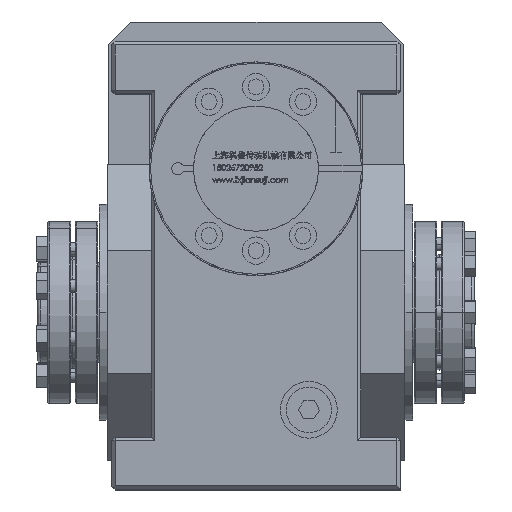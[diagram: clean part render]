
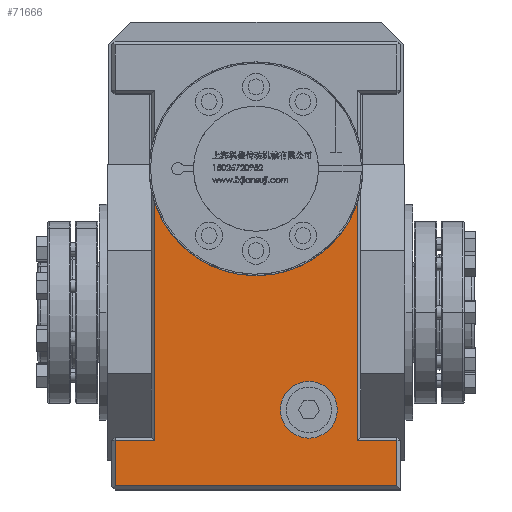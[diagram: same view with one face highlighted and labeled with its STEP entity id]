
A CAD part, top view. The second image highlights one B-rep face of the part: STEP entity #71666.
In plain terms, the highlighted planar face has unit normal (0, 0, 1).
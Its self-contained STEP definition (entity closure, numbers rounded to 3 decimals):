
#1091 = VERTEX_POINT ( 'NONE', #26248 ) ;
#1142 = CIRCLE ( 'NONE', #66708, 47. ) ;
#2273 = CARTESIAN_POINT ( 'NONE',  ( 63.5, -56.5, 83. ) ) ;
#4667 = DIRECTION ( 'NONE',  ( 0., -1., 0. ) ) ;
#6211 = VERTEX_POINT ( 'NONE', #77952 ) ;
#8925 = ORIENTED_EDGE ( 'NONE', *, *, #73434, .T. ) ;
#9269 = EDGE_CURVE ( 'NONE', #15785, #22098, #50517, .T. ) ;
#10593 = ORIENTED_EDGE ( 'NONE', *, *, #22511, .T. ) ;
#10961 = VECTOR ( 'NONE', #22382, 1000. ) ;
#11779 = ORIENTED_EDGE ( 'NONE', *, *, #73125, .F. ) ;
#12410 = DIRECTION ( 'NONE',  ( 0., 1., 0. ) ) ;
#12544 = CIRCLE ( 'NONE', #32111, 12.5 ) ;
#12589 = ORIENTED_EDGE ( 'NONE', *, *, #9269, .T. ) ;
#12796 = EDGE_CURVE ( 'NONE', #58542, #64301, #21939, .T. ) ;
#13722 = PLANE ( 'NONE',  #68805 ) ;
#15235 = VERTEX_POINT ( 'NONE', #37218 ) ;
#15785 = VERTEX_POINT ( 'NONE', #68820 ) ;
#15965 = AXIS2_PLACEMENT_3D ( 'NONE', #25913, #79174, #72630 ) ;
#16360 = VERTEX_POINT ( 'NONE', #44254 ) ;
#18860 = CARTESIAN_POINT ( 'NONE',  ( 63.5, -76.5, 83. ) ) ;
#18994 = DIRECTION ( 'NONE',  ( 0., 0., 1. ) ) ;
#21101 = EDGE_CURVE ( 'NONE', #64301, #34229, #37816, .T. ) ;
#21567 = FACE_BOUND ( 'NONE', #24738, .T. ) ;
#21939 = LINE ( 'NONE', #2273, #10961 ) ;
#22006 = EDGE_CURVE ( 'NONE', #6211, #58542, #22142, .T. ) ;
#22098 = VERTEX_POINT ( 'NONE', #79692 ) ;
#22142 = LINE ( 'NONE', #48772, #58362 ) ;
#22382 = DIRECTION ( 'NONE',  ( -1., 0., 0. ) ) ;
#22511 = EDGE_CURVE ( 'NONE', #74742, #15235, #68632, .T. ) ;
#24641 = CARTESIAN_POINT ( 'NONE',  ( 44.5, 47.876, 83. ) ) ;
#24738 = EDGE_LOOP ( 'NONE', ( #70956, #11779 ) ) ;
#25913 = CARTESIAN_POINT ( 'NONE',  ( 23.262, -43., 83. ) ) ;
#25980 = EDGE_CURVE ( 'NONE', #1091, #16360, #12544, .T. ) ;
#26248 = CARTESIAN_POINT ( 'NONE',  ( 35.762, -43., 83. ) ) ;
#29140 = ORIENTED_EDGE ( 'NONE', *, *, #22006, .T. ) ;
#31069 = LINE ( 'NONE', #52867, #75864 ) ;
#32111 = AXIS2_PLACEMENT_3D ( 'NONE', #78992, #59757, #53207 ) ;
#32152 = CARTESIAN_POINT ( 'NONE',  ( -62., 119., 83. ) ) ;
#32771 = DIRECTION ( 'NONE',  ( -1., 0., 0. ) ) ;
#34229 = VERTEX_POINT ( 'NONE', #24641 ) ;
#37218 = CARTESIAN_POINT ( 'NONE',  ( -44.5, -56.5, 83. ) ) ;
#37816 = LINE ( 'NONE', #57924, #45679 ) ;
#38908 = LINE ( 'NONE', #18860, #64758 ) ;
#39484 = DIRECTION ( 'NONE',  ( 0., 1., 0. ) ) ;
#40115 = CARTESIAN_POINT ( 'NONE',  ( -44.5, 47.876, 83. ) ) ;
#41850 = ORIENTED_EDGE ( 'NONE', *, *, #12796, .T. ) ;
#42890 = DIRECTION ( 'NONE',  ( 0., -1., 0. ) ) ;
#43083 = VECTOR ( 'NONE', #42890, 1000. ) ;
#44254 = CARTESIAN_POINT ( 'NONE',  ( 10.762, -43., 83. ) ) ;
#44890 = EDGE_CURVE ( 'NONE', #74742, #34229, #1142, .T. ) ;
#45679 = VECTOR ( 'NONE', #50936, 1000. ) ;
#45887 = EDGE_LOOP ( 'NONE', ( #8925, #29140, #41850, #79256, #64427, #10593, #65224, #12589 ) ) ;
#46913 = CARTESIAN_POINT ( 'NONE',  ( 63.5, 119., 83. ) ) ;
#48202 = DIRECTION ( 'NONE',  ( 0., 0., -1. ) ) ;
#48772 = CARTESIAN_POINT ( 'NONE',  ( 62., -55., 83. ) ) ;
#50517 = LINE ( 'NONE', #32152, #69882 ) ;
#50936 = DIRECTION ( 'NONE',  ( 0., 1., 0. ) ) ;
#52453 = DIRECTION ( 'NONE',  ( 1., 0., 0. ) ) ;
#52867 = CARTESIAN_POINT ( 'NONE',  ( -63.5, -56.5, 83. ) ) ;
#53207 = DIRECTION ( 'NONE',  ( 1., 0., 0. ) ) ;
#53597 = CIRCLE ( 'NONE', #15965, 12.5 ) ;
#54740 = FACE_OUTER_BOUND ( 'NONE', #45887, .T. ) ;
#55104 = CARTESIAN_POINT ( 'NONE',  ( -44.5, -55., 83. ) ) ;
#56226 = CARTESIAN_POINT ( 'NONE',  ( 44.5, -56.5, 83. ) ) ;
#57924 = CARTESIAN_POINT ( 'NONE',  ( 44.5, 53.356, 83. ) ) ;
#58362 = VECTOR ( 'NONE', #75402, 1000. ) ;
#58542 = VERTEX_POINT ( 'NONE', #65537 ) ;
#58596 = EDGE_CURVE ( 'NONE', #15235, #15785, #31069, .T. ) ;
#59757 = DIRECTION ( 'NONE',  ( 0., 0., 1. ) ) ;
#64301 = VERTEX_POINT ( 'NONE', #56226 ) ;
#64427 = ORIENTED_EDGE ( 'NONE', *, *, #44890, .F. ) ;
#64758 = VECTOR ( 'NONE', #52453, 1000. ) ;
#65224 = ORIENTED_EDGE ( 'NONE', *, *, #58596, .T. ) ;
#65537 = CARTESIAN_POINT ( 'NONE',  ( 62., -56.5, 83. ) ) ;
#66708 = AXIS2_PLACEMENT_3D ( 'NONE', #85321, #18994, #12410 ) ;
#68632 = LINE ( 'NONE', #55104, #43083 ) ;
#68805 = AXIS2_PLACEMENT_3D ( 'NONE', #46913, #48202, #39484 ) ;
#68820 = CARTESIAN_POINT ( 'NONE',  ( -62., -56.5, 83. ) ) ;
#69882 = VECTOR ( 'NONE', #4667, 1000. ) ;
#70956 = ORIENTED_EDGE ( 'NONE', *, *, #25980, .F. ) ;
#71666 = ADVANCED_FACE ( 'NONE', ( #54740, #21567 ), #13722, .F. ) ;
#72630 = DIRECTION ( 'NONE',  ( 1., 0., 0. ) ) ;
#73125 = EDGE_CURVE ( 'NONE', #16360, #1091, #53597, .T. ) ;
#73434 = EDGE_CURVE ( 'NONE', #22098, #6211, #38908, .T. ) ;
#74742 = VERTEX_POINT ( 'NONE', #40115 ) ;
#75402 = DIRECTION ( 'NONE',  ( 0., 1., 0. ) ) ;
#75864 = VECTOR ( 'NONE', #32771, 1000. ) ;
#77952 = CARTESIAN_POINT ( 'NONE',  ( 62., -76.5, 83. ) ) ;
#78992 = CARTESIAN_POINT ( 'NONE',  ( 23.262, -43., 83. ) ) ;
#79174 = DIRECTION ( 'NONE',  ( 0., 0., 1. ) ) ;
#79256 = ORIENTED_EDGE ( 'NONE', *, *, #21101, .T. ) ;
#79692 = CARTESIAN_POINT ( 'NONE',  ( -62., -76.5, 83. ) ) ;
#85321 = CARTESIAN_POINT ( 'NONE',  ( 0., 63., 83. ) ) ;
